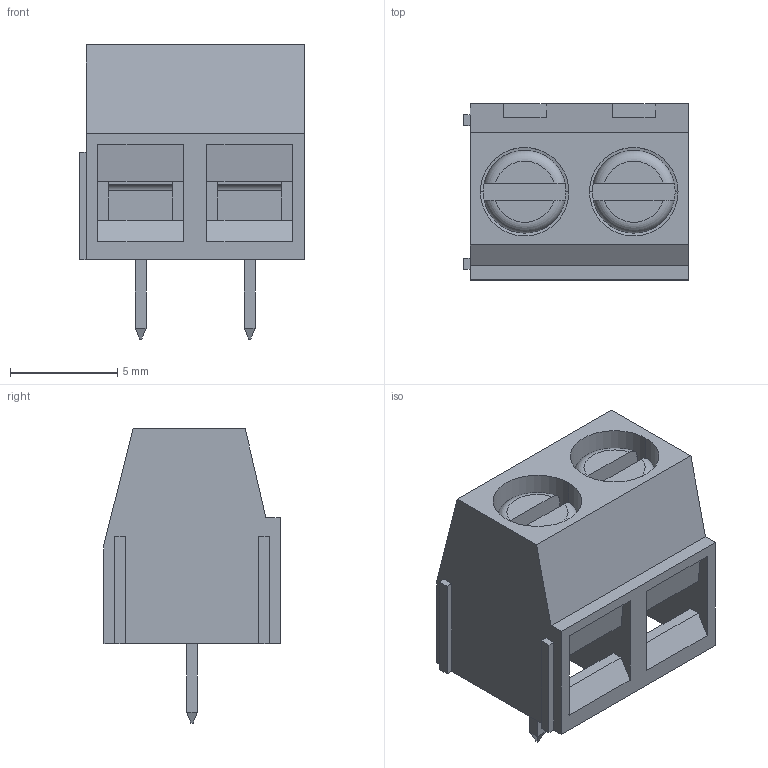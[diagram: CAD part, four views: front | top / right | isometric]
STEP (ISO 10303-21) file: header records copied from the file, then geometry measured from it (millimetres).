
FILE_DESCRIPTION (( 'STEP AP214' ), '1' );
FILE_NAME ('CONN-TH_P5.08_KF127-5.08-2P.step', '2022-08-02T18:43:09', ( '' ), ( '' ), 'SwSTEP 2.0', 'SolidWorks 2020', '' );
FILE_SCHEMA (( 'AUTOMOTIVE_DESIGN' ));
Length unit declared in the file: millimetre
Products named in the file (1): CONN-TH_P5.08_KF127-5.08-2P
Bounding box: 10.46 x 8.2 x 13.7 mm (x, y, z)
Volume: 420 mm3; surface area: 1156.1 mm2
Topology: 16 solids, 16 shells, 406 faces, 1070 edges, 690 vertices
Faces by surface type: plane 276, bspline 98, cylinder 24, cone 4, torus 4
Entity records: 15026 total; most frequent: CARTESIAN_POINT 3513, ORIENTED_EDGE 2140, DIRECTION 1546, EDGE_CURVE 1070, VECTOR 796, LINE 796, VERTEX_POINT 690, EDGE_LOOP 428
